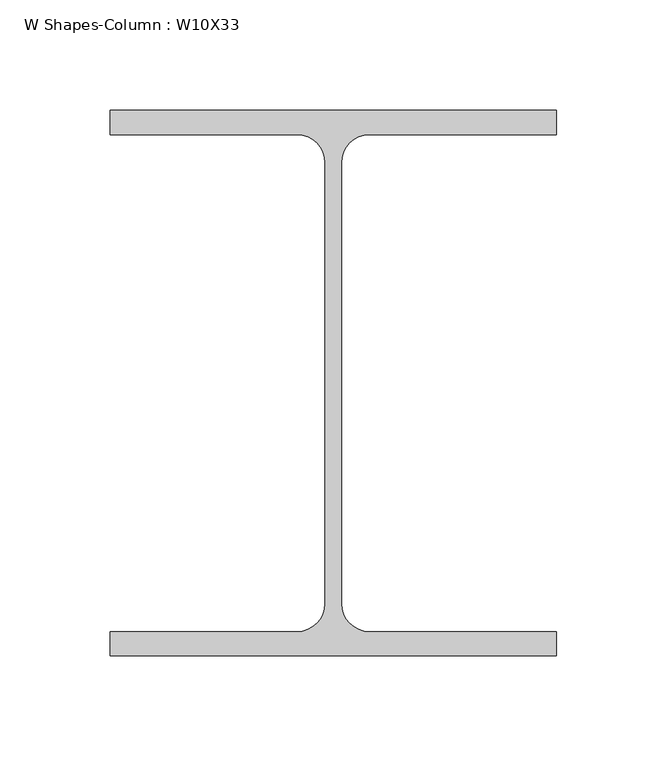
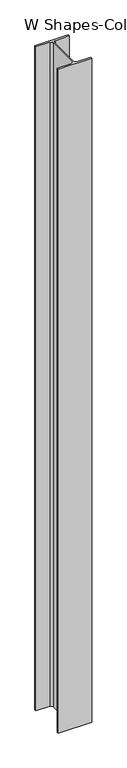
"""IFC4 building model written with IfcOpenShell, lengths in millimetres: column geometry, W Shapes-Column : W10X33."""

from ifc_helpers import new_model, si_unit, point, frame, frame_2d, origin, place, context, project, spatial, polyline, circle_curve, trimmed, segment, composite_curve, outline, extrude, source, transform, mapped, element, save


def w_shapes_column_w10x33_a1101d32(model_context):
    return source(origin(), model_context, "Body", "SweptSolid", [
        extrude(outline(composite_curve([segment(polyline([(101.092, 123.571), (101.092, 112.522), (16.383, 112.522)]), True, "CONTINUOUS"), segment(trimmed(circle_curve(frame_2d((16.383, 99.822)), 12.7), [point((16.383, 112.522))], [point((3.683, 99.822))], True, "CARTESIAN"), True, "CONTINUOUS"), segment(polyline([(3.683, 99.822), (3.683, -99.822)]), True, "CONTINUOUS"), segment(trimmed(circle_curve(frame_2d((16.383, -99.822)), 12.7), [point((3.683, -99.822))], [point((16.383, -112.522))], True, "CARTESIAN"), True, "CONTINUOUS"), segment(polyline([(16.383, -112.522), (101.092, -112.522), (101.092, -123.571), (-101.092, -123.571), (-101.092, -112.522), (-16.383, -112.522)]), True, "CONTINUOUS"), segment(trimmed(circle_curve(frame_2d((-16.383, -99.822)), 12.7), [point((-16.383, -112.522))], [point((-3.683, -99.822))], True, "CARTESIAN"), True, "CONTINUOUS"), segment(polyline([(-3.683, -99.822), (-3.683, 99.822)]), True, "CONTINUOUS"), segment(trimmed(circle_curve(frame_2d((-16.383, 99.822)), 12.7), [point((-3.683, 99.822))], [point((-16.383, 112.522))], True, "CARTESIAN"), True, "CONTINUOUS"), segment(polyline([(-16.383, 112.522), (-101.092, 112.522), (-101.092, 123.571), (101.092, 123.571)]), True, "CONTINUOUS")], self_intersect=False)), frame((0.0, 0.0, -1219.2), z_axis=(0.0, 0.0, 1.0), x_axis=(1.0, 0.0, 0.0)), (0.0, 0.0, 1.0), 4267.2),
    ])


if __name__ == "__main__":
    model = new_model("IFC4")
    model_context = context("Model", 3, world=origin())
    ifc_project = project(units=[si_unit("LENGTHUNIT", "METRE", prefix="MILLI")], contexts=[model_context])
    site = spatial("IfcSite", under=ifc_project)
    building = spatial("IfcBuilding", under=site)
    placement = place(None, origin())
    w_shapes_column_w10x33_shape = w_shapes_column_w10x33_a1101d32(model_context)
    element("IfcColumn", 1, ObjectType="W Shapes-Column : W10X33", at=placement, inside=building, context=model_context, shape_type="MappedRepresentation", body=[
        mapped(w_shapes_column_w10x33_shape, transform((0.0, 0.0, 0.0), x_axis=(1.0, 0.0, 0.0), y_axis=(0.0, 1.0, 0.0), z_axis=(0.0, 0.0, 1.0))),
    ])
    save(model, "model.ifc")
